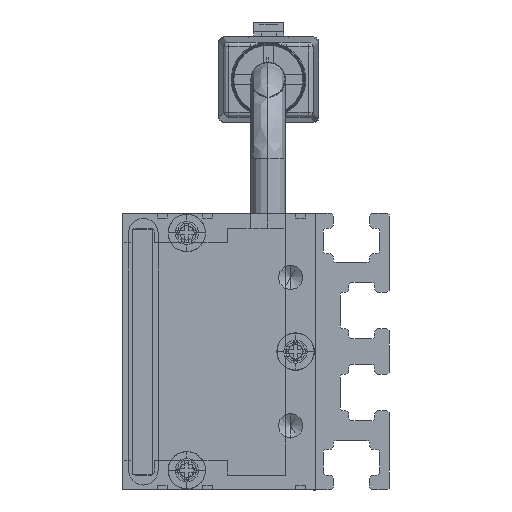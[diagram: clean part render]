
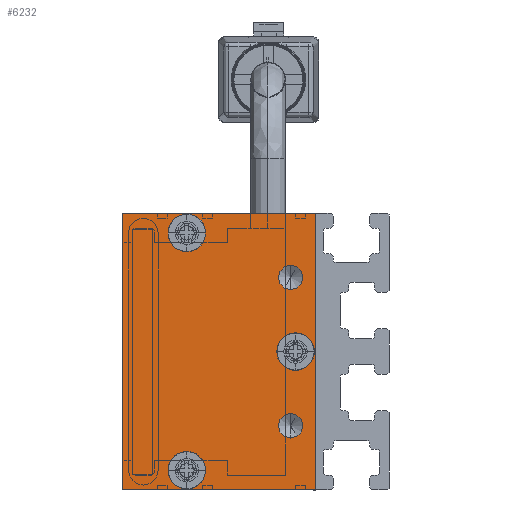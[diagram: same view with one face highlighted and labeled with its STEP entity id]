
A CAD part, left-side view. The second image highlights one B-rep face of the part: STEP entity #6232.
In plain terms, the highlighted planar face has unit normal (-1, 0, 0) as drawn and (0, 0, -1) by its records, which use the part's own axes.
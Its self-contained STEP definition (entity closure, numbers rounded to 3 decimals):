
#9 = VERTEX_POINT ( 'NONE', #9234 ) ;
#20 = CIRCLE ( 'NONE', #10700, 1.25 ) ;
#827 = EDGE_LOOP ( 'NONE', ( #5050, #2106, #9640, #9448 ) ) ;
#1141 = CIRCLE ( 'NONE', #8412, 1.25 ) ;
#1220 = FACE_BOUND ( 'NONE', #3458, .T. ) ;
#1308 = DIRECTION ( 'NONE',  ( 0., 0., -1. ) ) ;
#1327 = CARTESIAN_POINT ( 'NONE',  ( -7.5, 2.5, -2.5 ) ) ;
#1349 = ORIENTED_EDGE ( 'NONE', *, *, #3321, .F. ) ;
#1544 = DIRECTION ( 'NONE',  ( 0., 1., 0. ) ) ;
#1575 = EDGE_CURVE ( 'NONE', #7877, #9964, #6862, .T. ) ;
#1708 = ORIENTED_EDGE ( 'NONE', *, *, #11858, .F. ) ;
#1765 = CARTESIAN_POINT ( 'NONE',  ( 7.5, 2.5, -2.5 ) ) ;
#1851 = CARTESIAN_POINT ( 'NONE',  ( 8.75, 2.5, -2.5 ) ) ;
#2066 = DIRECTION ( 'NONE',  ( -1., 0., 0. ) ) ;
#2106 = ORIENTED_EDGE ( 'NONE', *, *, #10843, .F. ) ;
#2207 = EDGE_CURVE ( 'NONE', #2962, #12430, #12737, .T. ) ;
#2469 = DIRECTION ( 'NONE',  ( 0., 0., -1. ) ) ;
#2672 = CARTESIAN_POINT ( 'NONE',  ( 14., 19.5, -2.5 ) ) ;
#2738 = LINE ( 'NONE', #4938, #8631 ) ;
#2754 = DIRECTION ( 'NONE',  ( 0., 0., -1. ) ) ;
#2828 = ORIENTED_EDGE ( 'NONE', *, *, #8759, .F. ) ;
#2962 = VERTEX_POINT ( 'NONE', #12302 ) ;
#3010 = CARTESIAN_POINT ( 'NONE',  ( 14., 0., -2.5 ) ) ;
#3018 = CIRCLE ( 'NONE', #8489, 1.25 ) ;
#3039 = AXIS2_PLACEMENT_3D ( 'NONE', #8610, #7463, #2066 ) ;
#3075 = LINE ( 'NONE', #4285, #12899 ) ;
#3130 = AXIS2_PLACEMENT_3D ( 'NONE', #3596, #2754, #10247 ) ;
#3193 = VERTEX_POINT ( 'NONE', #1851 ) ;
#3250 = VERTEX_POINT ( 'NONE', #9613 ) ;
#3258 = EDGE_CURVE ( 'NONE', #9964, #7877, #5065, .T. ) ;
#3321 = EDGE_CURVE ( 'NONE', #3905, #5668, #3018, .T. ) ;
#3333 = FACE_OUTER_BOUND ( 'NONE', #827, .T. ) ;
#3458 = EDGE_LOOP ( 'NONE', ( #13174, #2828 ) ) ;
#3596 = CARTESIAN_POINT ( 'NONE',  ( 0., 2., -2.5 ) ) ;
#3719 = CIRCLE ( 'NONE', #3039, 1.25 ) ;
#3905 = VERTEX_POINT ( 'NONE', #7106 ) ;
#4142 = CARTESIAN_POINT ( 'NONE',  ( -14., 19.5, -2.5 ) ) ;
#4214 = DIRECTION ( 'NONE',  ( -1., 0., 0. ) ) ;
#4240 = AXIS2_PLACEMENT_3D ( 'NONE', #9055, #13353, #7977 ) ;
#4285 = CARTESIAN_POINT ( 'NONE',  ( 14., 0., -2.5 ) ) ;
#4298 = ORIENTED_EDGE ( 'NONE', *, *, #1575, .F. ) ;
#4321 = CARTESIAN_POINT ( 'NONE',  ( -12., 13., -2.5 ) ) ;
#4445 = DIRECTION ( 'NONE',  ( 0., 0., -1. ) ) ;
#4456 = CARTESIAN_POINT ( 'NONE',  ( -7.5, 2.5, -2.5 ) ) ;
#4938 = CARTESIAN_POINT ( 'NONE',  ( -14., 0., -2.5 ) ) ;
#5050 = ORIENTED_EDGE ( 'NONE', *, *, #13190, .F. ) ;
#5065 = CIRCLE ( 'NONE', #6900, 1.9 ) ;
#5075 = EDGE_LOOP ( 'NONE', ( #6171, #4298 ) ) ;
#5146 = LINE ( 'NONE', #4142, #9016 ) ;
#5476 = CARTESIAN_POINT ( 'NONE',  ( 14., 19.5, -2.5 ) ) ;
#5548 = EDGE_LOOP ( 'NONE', ( #9076, #13378 ) ) ;
#5556 = FACE_BOUND ( 'NONE', #5075, .T. ) ;
#5647 = CIRCLE ( 'NONE', #3130, 1.9 ) ;
#5648 = DIRECTION ( 'NONE',  ( -1., 0., 0. ) ) ;
#5668 = VERTEX_POINT ( 'NONE', #7277 ) ;
#5763 = FACE_BOUND ( 'NONE', #12277, .T. ) ;
#5947 = AXIS2_PLACEMENT_3D ( 'NONE', #9462, #8247, #6107 ) ;
#6107 = DIRECTION ( 'NONE',  ( -1., 0., 0. ) ) ;
#6171 = ORIENTED_EDGE ( 'NONE', *, *, #3258, .F. ) ;
#6232 = ADVANCED_FACE ( 'NONE', ( #1220, #5556, #9910, #13275, #5763, #3333 ), #7827, .T. ) ;
#6548 = DIRECTION ( 'NONE',  ( -1., 0., 0. ) ) ;
#6566 = DIRECTION ( 'NONE',  ( -1., 0., 0. ) ) ;
#6822 = CIRCLE ( 'NONE', #7037, 1.9 ) ;
#6862 = CIRCLE ( 'NONE', #5947, 1.9 ) ;
#6881 = AXIS2_PLACEMENT_3D ( 'NONE', #12325, #9148, #10993 ) ;
#6900 = AXIS2_PLACEMENT_3D ( 'NONE', #4321, #9680, #8684 ) ;
#7037 = AXIS2_PLACEMENT_3D ( 'NONE', #7776, #1308, #5648 ) ;
#7079 = DIRECTION ( 'NONE',  ( 0., -1., 0. ) ) ;
#7105 = ORIENTED_EDGE ( 'NONE', *, *, #11005, .F. ) ;
#7106 = CARTESIAN_POINT ( 'NONE',  ( -8.75, 2.5, -2.5 ) ) ;
#7133 = CARTESIAN_POINT ( 'NONE',  ( 1.9, 2., -2.5 ) ) ;
#7135 = CARTESIAN_POINT ( 'NONE',  ( 13.9, 13., -2.5 ) ) ;
#7213 = CARTESIAN_POINT ( 'NONE',  ( -10.1, 13., -2.5 ) ) ;
#7277 = CARTESIAN_POINT ( 'NONE',  ( -6.25, 2.5, -2.5 ) ) ;
#7463 = DIRECTION ( 'NONE',  ( 0., 0., -1. ) ) ;
#7776 = CARTESIAN_POINT ( 'NONE',  ( 0., 2., -2.5 ) ) ;
#7781 = EDGE_CURVE ( 'NONE', #10738, #3250, #5146, .T. ) ;
#7827 = PLANE ( 'NONE',  #8603 ) ;
#7830 = EDGE_LOOP ( 'NONE', ( #8176, #7105 ) ) ;
#7877 = VERTEX_POINT ( 'NONE', #7213 ) ;
#7905 = CARTESIAN_POINT ( 'NONE',  ( -14., 0., -2.5 ) ) ;
#7977 = DIRECTION ( 'NONE',  ( -1., 0., 0. ) ) ;
#8176 = ORIENTED_EDGE ( 'NONE', *, *, #9497, .F. ) ;
#8247 = DIRECTION ( 'NONE',  ( 0., 0., -1. ) ) ;
#8412 = AXIS2_PLACEMENT_3D ( 'NONE', #1327, #4445, #8810 ) ;
#8424 = VERTEX_POINT ( 'NONE', #7133 ) ;
#8489 = AXIS2_PLACEMENT_3D ( 'NONE', #4456, #2469, #6548 ) ;
#8603 = AXIS2_PLACEMENT_3D ( 'NONE', #8836, #10115, #6566 ) ;
#8610 = CARTESIAN_POINT ( 'NONE',  ( 7.5, 2.5, -2.5 ) ) ;
#8631 = VECTOR ( 'NONE', #7079, 1000. ) ;
#8684 = DIRECTION ( 'NONE',  ( -1., 0., 0. ) ) ;
#8759 = EDGE_CURVE ( 'NONE', #12430, #2962, #12857, .T. ) ;
#8810 = DIRECTION ( 'NONE',  ( -1., 0., 0. ) ) ;
#8836 = CARTESIAN_POINT ( 'NONE',  ( 0., 0., -2.5 ) ) ;
#9016 = VECTOR ( 'NONE', #4214, 1000. ) ;
#9055 = CARTESIAN_POINT ( 'NONE',  ( 12., 13., -2.5 ) ) ;
#9076 = ORIENTED_EDGE ( 'NONE', *, *, #13155, .F. ) ;
#9098 = LINE ( 'NONE', #5476, #11916 ) ;
#9148 = DIRECTION ( 'NONE',  ( 0., 0., -1. ) ) ;
#9234 = CARTESIAN_POINT ( 'NONE',  ( 6.25, 2.5, -2.5 ) ) ;
#9394 = DIRECTION ( 'NONE',  ( 0., 0., -1. ) ) ;
#9448 = ORIENTED_EDGE ( 'NONE', *, *, #7781, .F. ) ;
#9462 = CARTESIAN_POINT ( 'NONE',  ( -12., 13., -2.5 ) ) ;
#9497 = EDGE_CURVE ( 'NONE', #12979, #8424, #5647, .T. ) ;
#9613 = CARTESIAN_POINT ( 'NONE',  ( -14., 19.5, -2.5 ) ) ;
#9640 = ORIENTED_EDGE ( 'NONE', *, *, #10761, .F. ) ;
#9680 = DIRECTION ( 'NONE',  ( 0., 0., -1. ) ) ;
#9910 = FACE_BOUND ( 'NONE', #7830, .T. ) ;
#9964 = VERTEX_POINT ( 'NONE', #13279 ) ;
#10115 = DIRECTION ( 'NONE',  ( 0., 0., -1. ) ) ;
#10247 = DIRECTION ( 'NONE',  ( -1., 0., 0. ) ) ;
#10463 = DIRECTION ( 'NONE',  ( -1., 0., 0. ) ) ;
#10700 = AXIS2_PLACEMENT_3D ( 'NONE', #1765, #9394, #10463 ) ;
#10738 = VERTEX_POINT ( 'NONE', #2672 ) ;
#10761 = EDGE_CURVE ( 'NONE', #3250, #12843, #2738, .T. ) ;
#10843 = EDGE_CURVE ( 'NONE', #12843, #12155, #3075, .T. ) ;
#10993 = DIRECTION ( 'NONE',  ( -1., 0., 0. ) ) ;
#11005 = EDGE_CURVE ( 'NONE', #8424, #12979, #6822, .T. ) ;
#11600 = EDGE_CURVE ( 'NONE', #3193, #9, #20, .T. ) ;
#11858 = EDGE_CURVE ( 'NONE', #5668, #3905, #1141, .T. ) ;
#11916 = VECTOR ( 'NONE', #1544, 1000. ) ;
#12155 = VERTEX_POINT ( 'NONE', #3010 ) ;
#12277 = EDGE_LOOP ( 'NONE', ( #1349, #1708 ) ) ;
#12302 = CARTESIAN_POINT ( 'NONE',  ( 10.1, 13., -2.5 ) ) ;
#12325 = CARTESIAN_POINT ( 'NONE',  ( 12., 13., -2.5 ) ) ;
#12430 = VERTEX_POINT ( 'NONE', #7135 ) ;
#12437 = CARTESIAN_POINT ( 'NONE',  ( -1.9, 2., -2.5 ) ) ;
#12737 = CIRCLE ( 'NONE', #6881, 1.9 ) ;
#12843 = VERTEX_POINT ( 'NONE', #7905 ) ;
#12857 = CIRCLE ( 'NONE', #4240, 1.9 ) ;
#12899 = VECTOR ( 'NONE', #12938, 1000. ) ;
#12938 = DIRECTION ( 'NONE',  ( 1., 0., 0. ) ) ;
#12979 = VERTEX_POINT ( 'NONE', #12437 ) ;
#13155 = EDGE_CURVE ( 'NONE', #9, #3193, #3719, .T. ) ;
#13174 = ORIENTED_EDGE ( 'NONE', *, *, #2207, .F. ) ;
#13190 = EDGE_CURVE ( 'NONE', #12155, #10738, #9098, .T. ) ;
#13275 = FACE_BOUND ( 'NONE', #5548, .T. ) ;
#13279 = CARTESIAN_POINT ( 'NONE',  ( -13.9, 13., -2.5 ) ) ;
#13353 = DIRECTION ( 'NONE',  ( 0., 0., -1. ) ) ;
#13378 = ORIENTED_EDGE ( 'NONE', *, *, #11600, .F. ) ;
